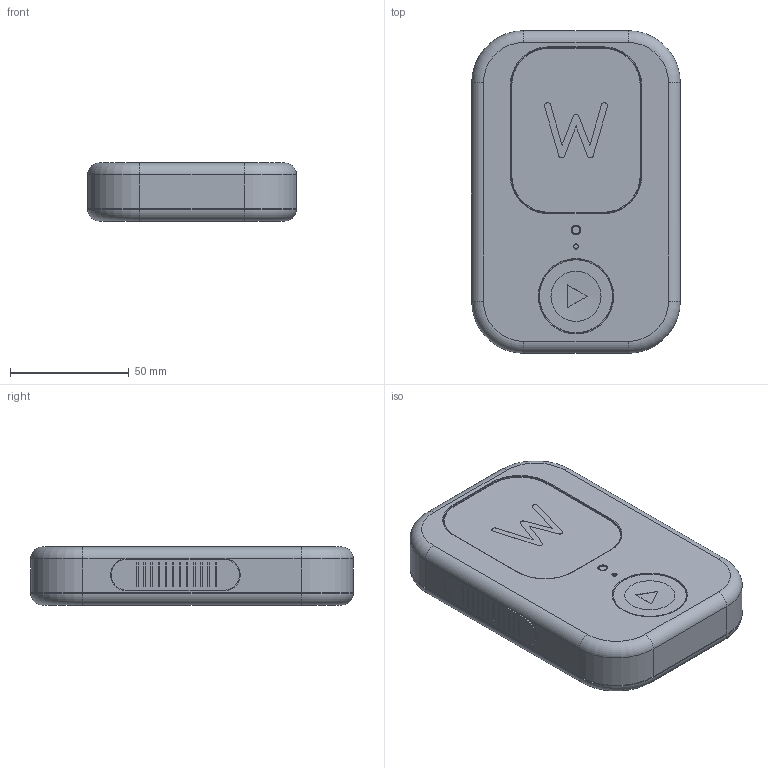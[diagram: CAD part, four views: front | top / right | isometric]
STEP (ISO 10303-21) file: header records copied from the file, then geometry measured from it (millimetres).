
FILE_DESCRIPTION(('Open CASCADE Model'),'2;1');
FILE_NAME('Open CASCADE Shape Model','2026-09-06T11:30:51',('Author'),( 'Open CASCADE'),'Open CASCADE STEP processor 7.7','Open CASCADE 7.7' ,'Unknown');
FILE_SCHEMA(('AUTOMOTIVE_DESIGN { 1 0 10303 214 1 1 1 1 }'));
Length unit declared in the file: millimetre
Products named in the file (74): Walkie_One_Concept_1_2_R8_APPEARANCE; 12_volume_plus_switch_cradle; 12_volume_plus_switch_cradle_part; 01_front_structural_tub; 01_front_structural_tub_part; 15_play_switch_cradle; 15_play_switch_cradle_part; 22_rear_wordmark_REFERENCE; 22_rear_wordmark_REFERENCE_part; 12_ptt_switch_cradle; 12_ptt_switch_cradle_part; 11_ptt_silicone_cap; 11_ptt_silicone_cap_part; 11_volume_minus_silicone_cap; 11_volume_minus_silicone_cap_part; 21_W_textile_mark_REFERENCE; 21_W_textile_mark_REFERENCE_part; 06_woven_acoustic_insert; 06_woven_acoustic_insert_part; 19_microphone_gasket; 19_microphone_gasket_part; 07_speaker_cradle; 07_speaker_cradle_part; 10_ptt_plunger; 10_ptt_plunger_part; 20_LTE_bond_film; 20_LTE_bond_film_part; 13_play_plunger; 13_play_plunger_part; 05_grille_backing; 05_grille_backing_part; 16_LED_support; 16_LED_support_part; 10_volume_plus_plunger; 10_volume_plus_plunger_part; 03_front_silicone_skin; 03_front_silicone_skin_part; 14_play_silicone_face; 14_play_silicone_face_part; 09_battery_tray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
Assembly tree (73 placements, depth 4):
  Walkie_One_Concept_1_2_R8_APPEARANCE
    Walkie_One_Concept_1_2_R8_APPEARANCE
      12_volume_plus_switch_cradle
        12_volume_plus_switch_cradle_part
      01_front_structural_tub
        01_front_structural_tub_part
      15_play_switch_cradle
        15_play_switch_cradle_part
      22_rear_wordmark_REFERENCE
        22_rear_wordmark_REFERENCE_part
      12_ptt_switch_cradle
        12_ptt_switch_cradle_part
      11_ptt_silicone_cap
        11_ptt_silicone_cap_part
      11_volume_minus_silicone_cap
        11_volume_minus_silicone_cap_part
      21_W_textile_mark_REFERENCE
        21_W_textile_mark_REFERENCE_part
      06_woven_acoustic_insert
        06_woven_acoustic_insert_part
      19_microphone_gasket
        19_microphone_gasket_part
      07_speaker_cradle
        07_speaker_cradle_part
      10_ptt_plunger
        10_ptt_plunger_part
      20_LTE_bond_film
        20_LTE_bond_film_part
      13_play_plunger
        13_play_plunger_part
      05_grille_backing
        05_grille_backing_part
      16_LED_support
        16_LED_support_part
      10_volume_plus_plunger
        10_volume_plus_plunger_part
      03_front_silicone_skin
        03_front_silicone_skin_part
      14_play_silicone_face
        14_play_silicone_face_part
      09_battery_tray
        09_battery_tray_part
      12_volume_minus_switch_cradle
        12_volume_minus_switch_cradle_part
      08_speaker_gasket
        08_speaker_gasket_part
      04_rear_silicone_skin
        04_rear_silicone_skin_part
      10_volume_minus_plunger
        10_volume_minus_plunger_part
      23_rear_Designed_in_Los_Angeles_REFERENCE
        23_rear_Designed_in_Los_Angeles_REFERENCE_part
      02_rear_structural_cover
        02_rear_structural_cover_part
      11_volume_plus_silicone_cap
        11_volume_plus_silicone_cap_part
      18_microphone_cradle
        18_microphone_cradle_part
      24_play_calibration_shim
        24_play_calibration_shim_part
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Bounding box: 88.4 x 136 x 24.52 mm (x, y, z)
Volume: 80680.2 mm3; surface area: 158088.9 mm2
Topology: 70 solids, 70 shells, 14989 faces, 44416 edges, 29595 vertices
Faces by surface type: plane 14476, cylinder 471, torus 39, sphere 3
Full cylindrical faces by diameter (mm): 1.6 x2, 1.8 x3, 2.2 x2, 2.8 x4, 3 x4, 3.012 x1, 3.1 x1, 3.3 x2, 3.7 x2, 4 x2, 4.3 x2, 4.4 x2, 5 x1, 5.3 x8, 5.6 x2, 5.8 x1, 6.2 x2, 8 x1, 30.8 x2, 31.4 x3, 33.9 x1, 36.4 x1, 39.6 x1
Entity records: 1073554 total; most frequent: CARTESIAN_POINT 183051, DIRECTION 163376, LINE 130472, VECTOR 130472, ORIENTED_EDGE 88828, PCURVE 88828, DEFINITIONAL_REPRESENTATION 88828, EDGE_CURVE 44414
